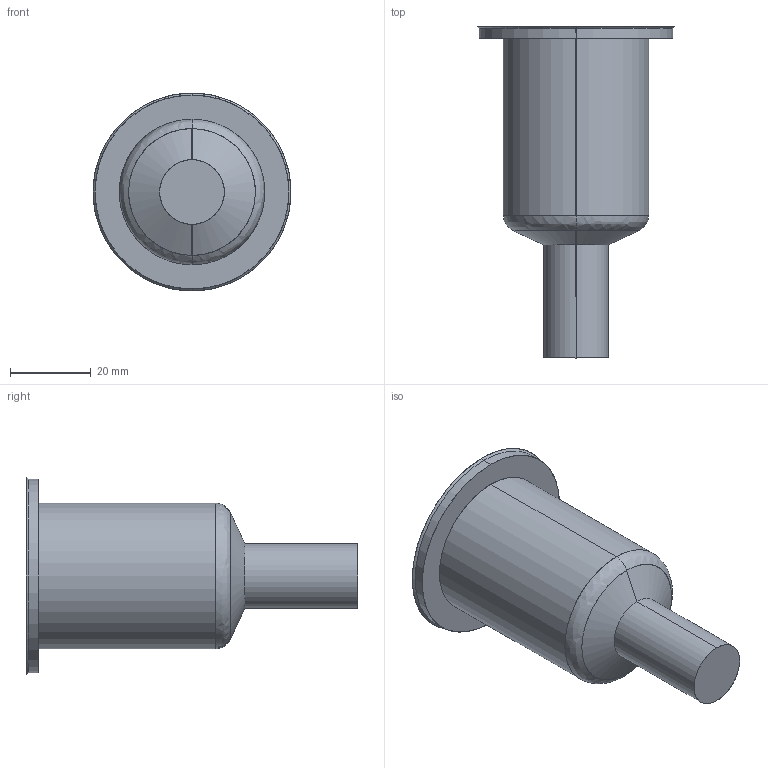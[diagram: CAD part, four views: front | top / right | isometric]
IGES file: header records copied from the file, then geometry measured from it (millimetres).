
Start section: SolidWorks IGES file using analytic representation for surfaces
Global section: file name: C:\Documents and Settings\ws-20\Desktop\TEMPORANEA\Sede UGBE5001-M-A C-54 L-74 P-25.IGS; native system: SolidWorks 2012; preprocessor: SolidWorks 2012; author: ws-20; date: 120307.090723; units: millimetre
Bounding box: 49 x 82.14 x 49 mm (x, y, z)
Surface area: 10860.7 mm2 (no closed solid volume)
Topology: 0 solids, 0 shells, 15 faces, 272 edges, 272 vertices
Faces by surface type: revolution 10, bspline 5
